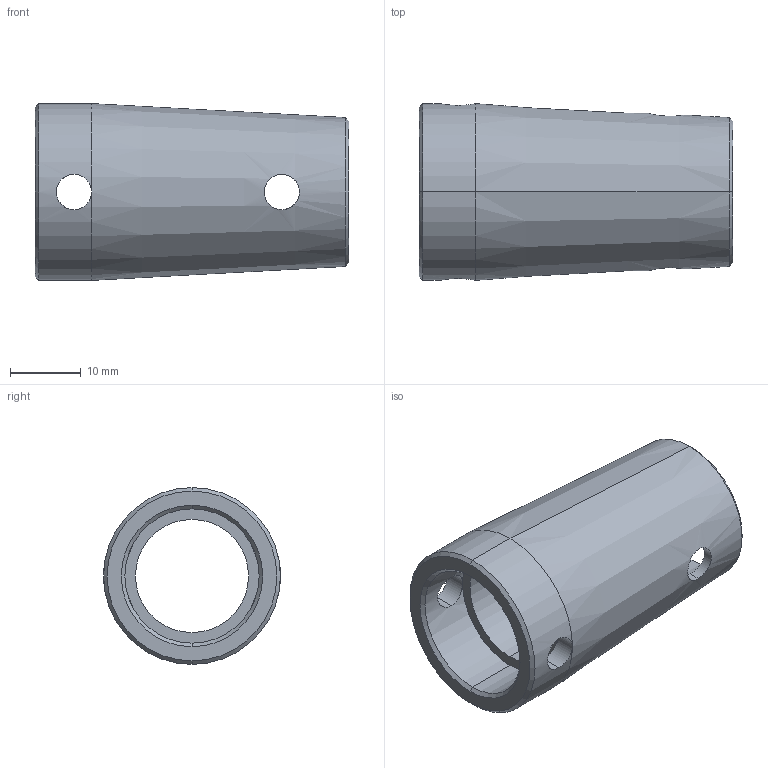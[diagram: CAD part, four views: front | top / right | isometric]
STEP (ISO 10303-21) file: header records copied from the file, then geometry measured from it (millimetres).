
FILE_DESCRIPTION (( 'STEP AP203' ), '1' );
FILE_NAME ('Abdeckhülse M16.STEP', '2018-02-20T06:49:34', ( 'install' ), ( 'Hewlett-Packard Company' ), 'SwSTEP 2.0', 'SolidWorks 2017', '' );
FILE_SCHEMA (( 'CONFIG_CONTROL_DESIGN' ));
Length unit declared in the file: millimetre
Products named in the file (1): Abdeckhülse M16
Bounding box: 44.4 x 25 x 25 mm (x, y, z)
Volume: 7840.7 mm3; surface area: 6100.7 mm2
Topology: 1 solids, 1 shells, 31 faces, 82 edges, 50 vertices
Faces by surface type: cylinder 18, cone 8, plane 5
Entity records: 1481 total; most frequent: CARTESIAN_POINT 634, ORIENTED_EDGE 164, DIRECTION 158, EDGE_CURVE 82, AXIS2_PLACEMENT_3D 66, VERTEX_POINT 50, EDGE_LOOP 38, CIRCLE 34
